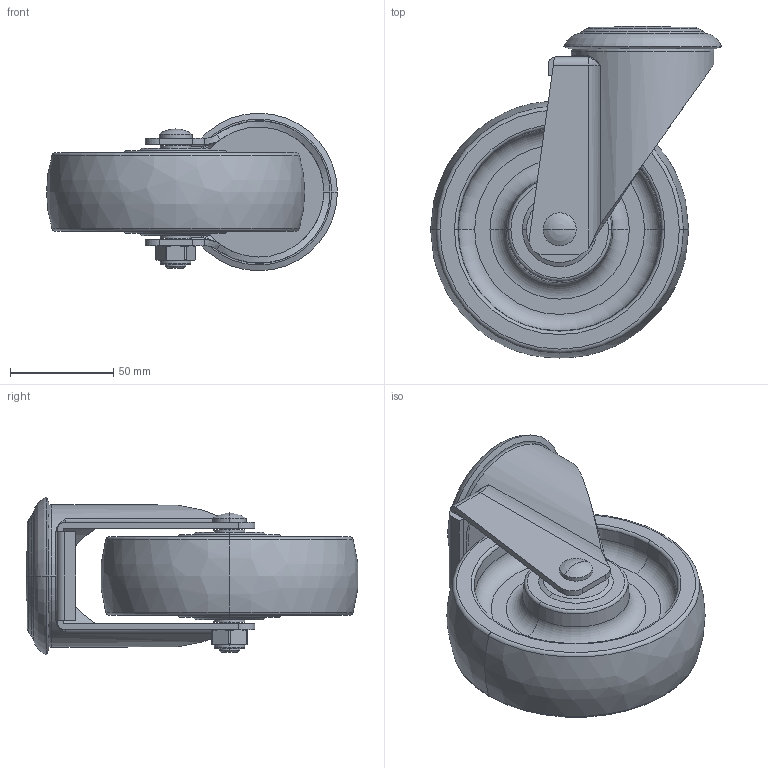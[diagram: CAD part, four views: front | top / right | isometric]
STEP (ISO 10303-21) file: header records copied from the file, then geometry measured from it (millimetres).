
FILE_DESCRIPTION((''),'2;1');
FILE_NAME('64175-645-06_ASM','2021-02-23T',('lenovo'),(''),'PRO/ENGINEER BY PARAMETRIC TECHNOLOGY CORPORATION, 2010280','PRO/ENGINEER BY PARAMETRIC TECHNOLOGY CORPORATION, 2010280','');
FILE_SCHEMA(('CONFIG_CONTROL_DESIGN'));
Length unit declared in the file: millimetre
Products named in the file (6): 6410-57; 645-11; 645-806; 630-33A; 630-34; 64175-645-06_ASM
Assembly tree (5 placements, depth 2):
  64175-645-06_ASM
    6410-57
    645-11
    645-806
    630-33A
    630-34
Bounding box: 140.83 x 160.7 x 76.26 mm (x, y, z)
Volume: 395088.3 mm3; surface area: 93992.9 mm2
Topology: 5 solids, 5 shells, 204 faces, 455 edges, 271 vertices
Faces by surface type: cylinder 51, torus 50, plane 49, cone 36, bspline 16, sphere 2
Entity records: 6768 total; most frequent: CARTESIAN_POINT 2067, DIRECTION 1045, ORIENTED_EDGE 906, EDGE_CURVE 453, AXIS2_PLACEMENT_3D 451, VERTEX_POINT 271, CIRCLE 252, EDGE_LOOP 226
